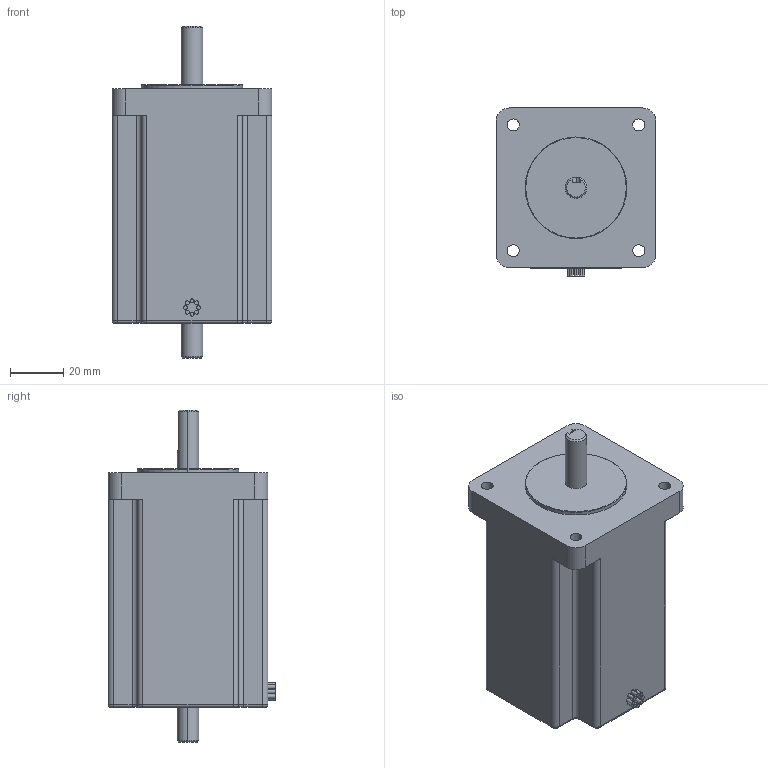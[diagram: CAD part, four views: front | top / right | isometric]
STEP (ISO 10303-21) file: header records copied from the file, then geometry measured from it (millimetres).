
FILE_DESCRIPTION (( 'STEP AP203' ), '1' );
FILE_NAME ('Nema23(SY60STH86-3008).STEP', '2021-01-13T08:43:26', ( '' ), ( '' ), 'SwSTEP 2.0', 'SolidWorks 2016', '' );
FILE_SCHEMA (( 'CONFIG_CONTROL_DESIGN' ));
Length unit declared in the file: millimetre
Products named in the file (1): Nema23(SY60STH86-3008)
Bounding box: 59.9 x 62.9 x 124.5 mm (x, y, z)
Volume: 279860.1 mm3; surface area: 29387.8 mm2
Topology: 1 solids, 1 shells, 141 faces, 335 edges, 203 vertices
Faces by surface type: cylinder 70, plane 33, cone 23, torus 14, bspline 1
Entity records: 4182 total; most frequent: DIRECTION 770, CARTESIAN_POINT 751, ORIENTED_EDGE 654, EDGE_CURVE 327, AXIS2_PLACEMENT_3D 311, VERTEX_POINT 203, CIRCLE 170, EDGE_LOOP 164
